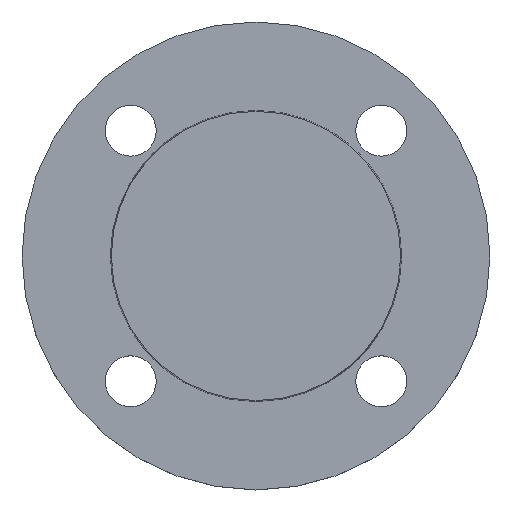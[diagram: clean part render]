
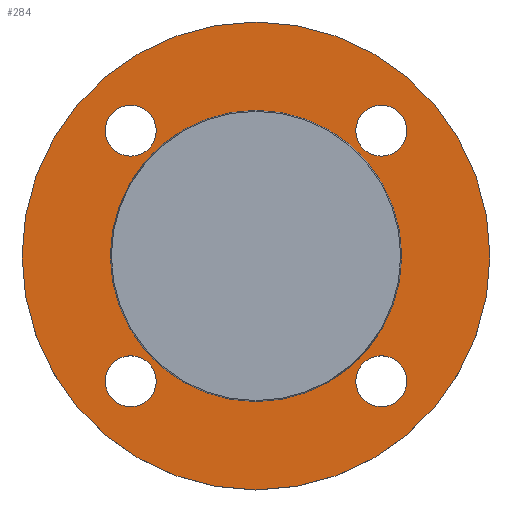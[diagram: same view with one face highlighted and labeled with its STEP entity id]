
A CAD part, top view. The second image highlights one B-rep face of the part: STEP entity #284.
In plain terms, the highlighted planar face has unit normal (0, 0, 1).
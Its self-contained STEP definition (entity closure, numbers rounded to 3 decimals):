
#8 = CIRCLE ( 'NONE', #162, 9. ) ;
#12 = EDGE_CURVE ( 'NONE', #414, #394, #76, .T. ) ;
#15 = EDGE_CURVE ( 'NONE', #396, #152, #291, .T. ) ;
#24 = DIRECTION ( 'NONE',  ( 1., 0., 0. ) ) ;
#26 = DIRECTION ( 'NONE',  ( 0., 0., 1. ) ) ;
#27 = CARTESIAN_POINT ( 'NONE',  ( 51.353, 0., -2. ) ) ;
#28 = CIRCLE ( 'NONE', #37, 51.353 ) ;
#32 = AXIS2_PLACEMENT_3D ( 'NONE', #601, #602, #603 ) ;
#33 = EDGE_CURVE ( 'NONE', #152, #396, #597, .T. ) ;
#34 = CIRCLE ( 'NONE', #32, 9. ) ;
#37 = AXIS2_PLACEMENT_3D ( 'NONE', #250, #251, #253 ) ;
#50 = AXIS2_PLACEMENT_3D ( 'NONE', #264, #265, #267 ) ;
#67 = EDGE_CURVE ( 'NONE', #433, #418, #158, .T. ) ;
#68 = DIRECTION ( 'NONE',  ( 1., 0., 0. ) ) ;
#69 = CARTESIAN_POINT ( 'NONE',  ( 44.194, -44.194, -2. ) ) ;
#70 = AXIS2_PLACEMENT_3D ( 'NONE', #586, #587, #588 ) ;
#75 = EDGE_CURVE ( 'NONE', #441, #395, #148, .T. ) ;
#76 = CIRCLE ( 'NONE', #281, 9. ) ;
#86 = CIRCLE ( 'NONE', #143, 82.5 ) ;
#98 = EDGE_CURVE ( 'NONE', #395, #441, #86, .T. ) ;
#99 = DIRECTION ( 'NONE',  ( 0., 0., -1. ) ) ;
#107 = AXIS2_PLACEMENT_3D ( 'NONE', #462, #463, #464 ) ;
#117 = CIRCLE ( 'NONE', #50, 9. ) ;
#118 = AXIS2_PLACEMENT_3D ( 'NONE', #27, #26, #24 ) ;
#121 = AXIS2_PLACEMENT_3D ( 'NONE', #517, #519, #520 ) ;
#133 = PLANE ( 'NONE',  #118 ) ;
#140 = AXIS2_PLACEMENT_3D ( 'NONE', #513, #515, #516 ) ;
#143 = AXIS2_PLACEMENT_3D ( 'NONE', #526, #527, #528 ) ;
#148 = CIRCLE ( 'NONE', #121, 82.5 ) ;
#150 = EDGE_CURVE ( 'NONE', #431, #404, #510, .T. ) ;
#152 = VERTEX_POINT ( 'NONE', #592 ) ;
#157 = EDGE_CURVE ( 'NONE', #399, #397, #34, .T. ) ;
#158 = CIRCLE ( 'NONE', #140, 51.353 ) ;
#162 = AXIS2_PLACEMENT_3D ( 'NONE', #69, #99, #68 ) ;
#187 = CIRCLE ( 'NONE', #489, 9. ) ;
#209 = CARTESIAN_POINT ( 'NONE',  ( -53.194, -44.194, -2. ) ) ;
#210 = CARTESIAN_POINT ( 'NONE',  ( 82.5, 0., -2. ) ) ;
#212 = CARTESIAN_POINT ( 'NONE',  ( -53.194, 44.194, -2. ) ) ;
#213 = CARTESIAN_POINT ( 'NONE',  ( 53.194, -44.194, -2. ) ) ;
#214 = CARTESIAN_POINT ( 'NONE',  ( 35.194, -44.194, -2. ) ) ;
#216 = CARTESIAN_POINT ( 'NONE',  ( 35.194, 44.194, -2. ) ) ;
#221 = CARTESIAN_POINT ( 'NONE',  ( -35.194, -44.194, -2. ) ) ;
#222 = CARTESIAN_POINT ( 'NONE',  ( -51.353, 0., -2. ) ) ;
#223 = CARTESIAN_POINT ( 'NONE',  ( 53.194, 44.194, -2. ) ) ;
#225 = CARTESIAN_POINT ( 'NONE',  ( 51.353, 0., -2. ) ) ;
#226 = CARTESIAN_POINT ( 'NONE',  ( -82.5, 0., -2. ) ) ;
#227 = CARTESIAN_POINT ( 'NONE',  ( 44.194, 44.194, -2. ) ) ;
#228 = DIRECTION ( 'NONE',  ( 0., 0., -1. ) ) ;
#229 = DIRECTION ( 'NONE',  ( 1., 0., 0. ) ) ;
#250 = CARTESIAN_POINT ( 'NONE',  ( 0., 0., -2. ) ) ;
#251 = DIRECTION ( 'NONE',  ( 0., 0., -1. ) ) ;
#253 = DIRECTION ( 'NONE',  ( -1., 0., 0. ) ) ;
#264 = CARTESIAN_POINT ( 'NONE',  ( -44.194, -44.194, -2. ) ) ;
#265 = DIRECTION ( 'NONE',  ( 0., 0., -1. ) ) ;
#267 = DIRECTION ( 'NONE',  ( 1., 0., 0. ) ) ;
#281 = AXIS2_PLACEMENT_3D ( 'NONE', #455, #456, #457 ) ;
#284 = ADVANCED_FACE ( 'NONE', ( #642, #643, #644, #645, #646, #648 ), #133, .T. ) ;
#291 = CIRCLE ( 'NONE', #107, 9. ) ;
#329 = ORIENTED_EDGE ( 'NONE', *, *, #637, .T. ) ;
#330 = ORIENTED_EDGE ( 'NONE', *, *, #157, .T. ) ;
#331 = ORIENTED_EDGE ( 'NONE', *, *, #12, .T. ) ;
#332 = ORIENTED_EDGE ( 'NONE', *, *, #557, .T. ) ;
#333 = ORIENTED_EDGE ( 'NONE', *, *, #33, .T. ) ;
#335 = ORIENTED_EDGE ( 'NONE', *, *, #15, .T. ) ;
#336 = ORIENTED_EDGE ( 'NONE', *, *, #150, .T. ) ;
#337 = ORIENTED_EDGE ( 'NONE', *, *, #447, .T. ) ;
#338 = ORIENTED_EDGE ( 'NONE', *, *, #524, .T. ) ;
#340 = ORIENTED_EDGE ( 'NONE', *, *, #67, .T. ) ;
#341 = ORIENTED_EDGE ( 'NONE', *, *, #98, .F. ) ;
#342 = ORIENTED_EDGE ( 'NONE', *, *, #75, .F. ) ;
#394 = VERTEX_POINT ( 'NONE', #209 ) ;
#395 = VERTEX_POINT ( 'NONE', #210 ) ;
#396 = VERTEX_POINT ( 'NONE', #212 ) ;
#397 = VERTEX_POINT ( 'NONE', #213 ) ;
#398 = EDGE_LOOP ( 'NONE', ( #336, #337 ) ) ;
#399 = VERTEX_POINT ( 'NONE', #214 ) ;
#401 = EDGE_LOOP ( 'NONE', ( #341, #342 ) ) ;
#404 = VERTEX_POINT ( 'NONE', #216 ) ;
#405 = EDGE_LOOP ( 'NONE', ( #333, #335 ) ) ;
#414 = VERTEX_POINT ( 'NONE', #221 ) ;
#418 = VERTEX_POINT ( 'NONE', #222 ) ;
#419 = EDGE_LOOP ( 'NONE', ( #338, #340 ) ) ;
#425 = EDGE_LOOP ( 'NONE', ( #331, #332 ) ) ;
#431 = VERTEX_POINT ( 'NONE', #223 ) ;
#433 = VERTEX_POINT ( 'NONE', #225 ) ;
#438 = EDGE_LOOP ( 'NONE', ( #329, #330 ) ) ;
#441 = VERTEX_POINT ( 'NONE', #226 ) ;
#447 = EDGE_CURVE ( 'NONE', #404, #431, #187, .T. ) ;
#455 = CARTESIAN_POINT ( 'NONE',  ( -44.194, -44.194, -2. ) ) ;
#456 = DIRECTION ( 'NONE',  ( 0., 0., -1. ) ) ;
#457 = DIRECTION ( 'NONE',  ( 1., 0., 0. ) ) ;
#462 = CARTESIAN_POINT ( 'NONE',  ( -44.194, 44.194, -2. ) ) ;
#463 = DIRECTION ( 'NONE',  ( 0., 0., -1. ) ) ;
#464 = DIRECTION ( 'NONE',  ( 1., 0., 0. ) ) ;
#482 = CARTESIAN_POINT ( 'NONE',  ( -44.194, 44.194, -2. ) ) ;
#483 = DIRECTION ( 'NONE',  ( 0., 0., -1. ) ) ;
#485 = DIRECTION ( 'NONE',  ( 1., 0., 0. ) ) ;
#489 = AXIS2_PLACEMENT_3D ( 'NONE', #227, #228, #229 ) ;
#510 = CIRCLE ( 'NONE', #70, 9. ) ;
#513 = CARTESIAN_POINT ( 'NONE',  ( 0., 0., -2. ) ) ;
#515 = DIRECTION ( 'NONE',  ( 0., 0., -1. ) ) ;
#516 = DIRECTION ( 'NONE',  ( -1., 0., 0. ) ) ;
#517 = CARTESIAN_POINT ( 'NONE',  ( 0., 0., -2. ) ) ;
#519 = DIRECTION ( 'NONE',  ( 0., 0., -1. ) ) ;
#520 = DIRECTION ( 'NONE',  ( -1., 0., 0. ) ) ;
#524 = EDGE_CURVE ( 'NONE', #418, #433, #28, .T. ) ;
#526 = CARTESIAN_POINT ( 'NONE',  ( 0., 0., -2. ) ) ;
#527 = DIRECTION ( 'NONE',  ( 0., 0., -1. ) ) ;
#528 = DIRECTION ( 'NONE',  ( -1., 0., 0. ) ) ;
#532 = AXIS2_PLACEMENT_3D ( 'NONE', #482, #483, #485 ) ;
#557 = EDGE_CURVE ( 'NONE', #394, #414, #117, .T. ) ;
#586 = CARTESIAN_POINT ( 'NONE',  ( 44.194, 44.194, -2. ) ) ;
#587 = DIRECTION ( 'NONE',  ( 0., 0., -1. ) ) ;
#588 = DIRECTION ( 'NONE',  ( 1., 0., 0. ) ) ;
#592 = CARTESIAN_POINT ( 'NONE',  ( -35.194, 44.194, -2. ) ) ;
#597 = CIRCLE ( 'NONE', #532, 9. ) ;
#601 = CARTESIAN_POINT ( 'NONE',  ( 44.194, -44.194, -2. ) ) ;
#602 = DIRECTION ( 'NONE',  ( 0., 0., -1. ) ) ;
#603 = DIRECTION ( 'NONE',  ( 1., 0., 0. ) ) ;
#637 = EDGE_CURVE ( 'NONE', #397, #399, #8, .T. ) ;
#642 = FACE_BOUND ( 'NONE', #438, .T. ) ;
#643 = FACE_BOUND ( 'NONE', #425, .T. ) ;
#644 = FACE_BOUND ( 'NONE', #405, .T. ) ;
#645 = FACE_BOUND ( 'NONE', #398, .T. ) ;
#646 = FACE_BOUND ( 'NONE', #419, .T. ) ;
#648 = FACE_OUTER_BOUND ( 'NONE', #401, .T. ) ;
